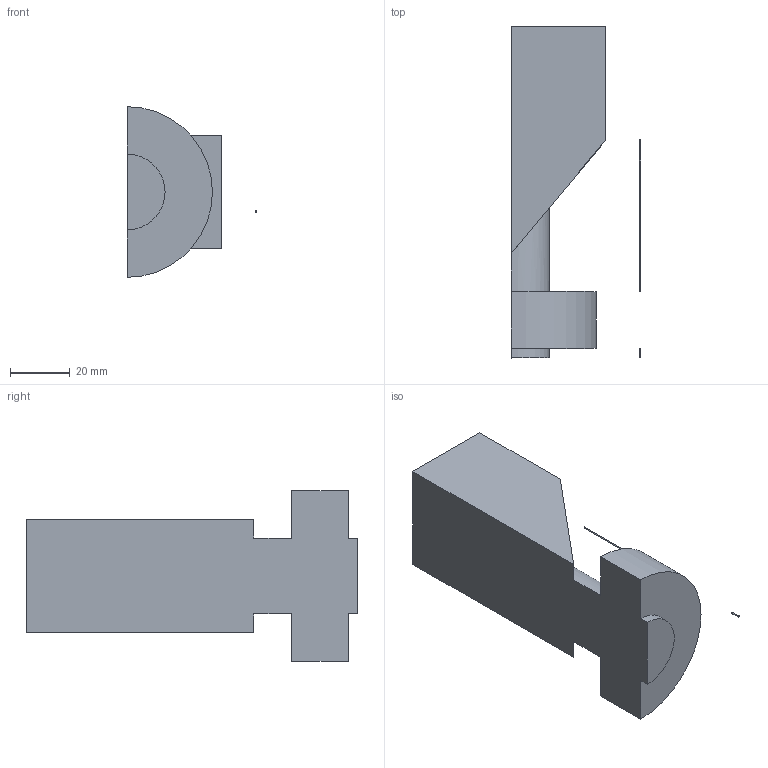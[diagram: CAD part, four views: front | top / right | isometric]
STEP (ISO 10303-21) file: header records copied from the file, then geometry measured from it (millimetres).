
FILE_DESCRIPTION(/* description */ ('Alibre Inc.'),/* implementation_level */ '2;1');
FILE_NAME(/* name */ 'export0',/* time_stamp */ '2018-10-04T12:35:46-04:00',/* author */ (''),/* organization */ (''),/* preprocessor_version */ 'ST-DEVELOPER v17',/* originating_system */ 'Alibre',/* authorisation */ '');
FILE_SCHEMA (('CONFIG_CONTROL_DESIGN'));
Length unit declared in the file: centimetre
Products named in the file (1): ID_1
Bounding box: 43.46 x 111.12 x 57.15 mm (x, y, z)
Volume: 99236.6 mm3; surface area: 17302.4 mm2
Topology: 3 solids, 3 shells, 18 faces, 36 edges, 24 vertices
Faces by surface type: plane 13, cylinder 5
Full cylindrical faces by diameter (mm): 0.471 x2
Entity records: 516 total; most frequent: CARTESIAN_POINT 73, ORIENTED_EDGE 68, DIRECTION 64, EDGE_CURVE 34, AXIS2_PLACEMENT_3D 28, VERTEX_POINT 24, VECTOR 21, LINE 21
